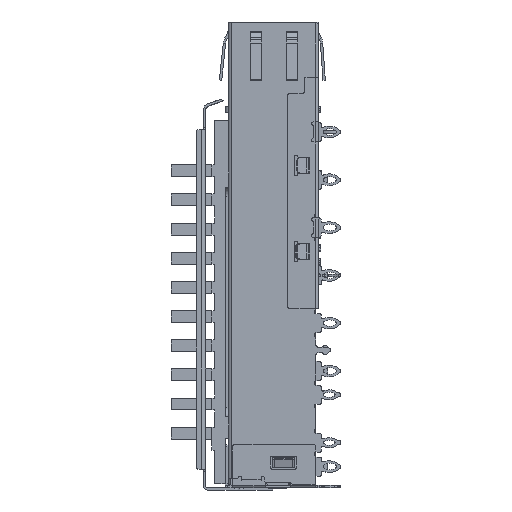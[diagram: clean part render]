
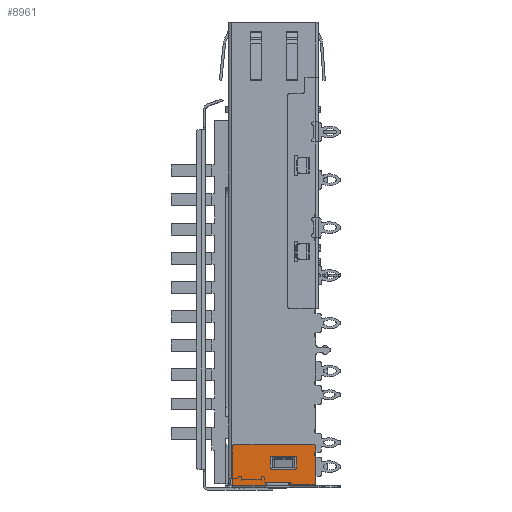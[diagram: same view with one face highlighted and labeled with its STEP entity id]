
A CAD part, left-side view. The second image highlights one B-rep face of the part: STEP entity #8961.
In plain terms, the highlighted planar face has unit normal (-1, 0, 0).
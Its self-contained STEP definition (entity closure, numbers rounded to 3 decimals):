
#8961=ADVANCED_FACE('',(#22542,#22543),#14576,.F.);
#14576=PLANE('',#120057);
#20111=CIRCLE('',#120032,0.2);
#20113=CIRCLE('',#120036,0.2);
#20115=CIRCLE('',#120039,0.2);
#20117=CIRCLE('',#120043,0.2);
#20119=CIRCLE('',#120047,0.2);
#20121=CIRCLE('',#120051,0.2);
#20123=CIRCLE('',#120055,0.25);
#20124=CIRCLE('',#120056,0.25);
#22542=FACE_BOUND('',#23632,.T.);
#22543=FACE_BOUND('',#23633,.T.);
#23632=EDGE_LOOP('',(#34675,#34676,#34677,#34678,#34679,#34680,#34681,#34682));
#23633=EDGE_LOOP('',(#34683,#34684,#34685,#34686,#34687,#34688,#34689,#34690,
#34691,#34692,#34693,#34694));
#34675=ORIENTED_EDGE('',*,*,#78746,.F.);
#34676=ORIENTED_EDGE('',*,*,#78743,.F.);
#34677=ORIENTED_EDGE('',*,*,#78740,.F.);
#34678=ORIENTED_EDGE('',*,*,#78737,.F.);
#34679=ORIENTED_EDGE('',*,*,#78734,.F.);
#34680=ORIENTED_EDGE('',*,*,#78731,.F.);
#34681=ORIENTED_EDGE('',*,*,#78728,.F.);
#34682=ORIENTED_EDGE('',*,*,#78724,.F.);
#34683=ORIENTED_EDGE('',*,*,#78719,.F.);
#34684=ORIENTED_EDGE('',*,*,#78748,.T.);
#34685=ORIENTED_EDGE('',*,*,#78749,.F.);
#34686=ORIENTED_EDGE('',*,*,#78698,.F.);
#34687=ORIENTED_EDGE('',*,*,#78750,.F.);
#34688=ORIENTED_EDGE('',*,*,#78714,.F.);
#34689=ORIENTED_EDGE('',*,*,#78710,.F.);
#34690=ORIENTED_EDGE('',*,*,#78721,.F.);
#34691=ORIENTED_EDGE('',*,*,#78751,.F.);
#34692=ORIENTED_EDGE('',*,*,#78705,.F.);
#34693=ORIENTED_EDGE('',*,*,#78752,.F.);
#34694=ORIENTED_EDGE('',*,*,#78753,.T.);
#66891=VERTEX_POINT('',#169129);
#66892=VERTEX_POINT('',#169131);
#66895=VERTEX_POINT('',#169143);
#66896=VERTEX_POINT('',#169145);
#66898=VERTEX_POINT('',#169155);
#66899=VERTEX_POINT('',#169156);
#66902=VERTEX_POINT('',#169164);
#66906=VERTEX_POINT('',#169173);
#66907=VERTEX_POINT('',#169175);
#66908=VERTEX_POINT('',#169179);
#66910=VERTEX_POINT('',#169185);
#66911=VERTEX_POINT('',#169186);
#66914=VERTEX_POINT('',#169194);
#66916=VERTEX_POINT('',#169200);
#66918=VERTEX_POINT('',#169206);
#66920=VERTEX_POINT('',#169212);
#66922=VERTEX_POINT('',#169218);
#66924=VERTEX_POINT('',#169224);
#66926=VERTEX_POINT('',#169233);
#66927=VERTEX_POINT('',#169238);
#78698=EDGE_CURVE('',#66891,#66892,#94080,.T.);
#78705=EDGE_CURVE('',#66895,#66896,#94085,.T.);
#78710=EDGE_CURVE('',#66898,#66899,#94089,.T.);
#78714=EDGE_CURVE('',#66899,#66902,#20111,.T.);
#78719=EDGE_CURVE('',#66906,#66907,#94096,.T.);
#78721=EDGE_CURVE('',#66908,#66898,#20113,.T.);
#78724=EDGE_CURVE('',#66910,#66911,#20115,.T.);
#78728=EDGE_CURVE('',#66911,#66914,#94101,.T.);
#78731=EDGE_CURVE('',#66914,#66916,#20117,.T.);
#78734=EDGE_CURVE('',#66916,#66918,#94105,.T.);
#78737=EDGE_CURVE('',#66918,#66920,#20119,.T.);
#78740=EDGE_CURVE('',#66920,#66922,#94109,.T.);
#78743=EDGE_CURVE('',#66922,#66924,#20121,.T.);
#78746=EDGE_CURVE('',#66924,#66910,#94113,.T.);
#78748=EDGE_CURVE('',#66906,#66926,#20123,.T.);
#78749=EDGE_CURVE('',#66892,#66926,#94115,.T.);
#78750=EDGE_CURVE('',#66902,#66891,#94116,.T.);
#78751=EDGE_CURVE('',#66896,#66908,#94117,.T.);
#78752=EDGE_CURVE('',#66927,#66895,#94118,.T.);
#78753=EDGE_CURVE('',#66927,#66907,#20124,.T.);
#94080=LINE('',#169130,#107084);
#94085=LINE('',#169144,#107089);
#94089=LINE('',#169154,#107093);
#94096=LINE('',#169174,#107100);
#94101=LINE('',#169193,#107105);
#94105=LINE('',#169205,#107109);
#94109=LINE('',#169217,#107113);
#94113=LINE('',#169229,#107117);
#94115=LINE('',#169234,#107119);
#94116=LINE('',#169235,#107120);
#94117=LINE('',#169236,#107121);
#94118=LINE('',#169237,#107122);
#107084=VECTOR('',#134809,1.);
#107089=VECTOR('',#134824,1.);
#107093=VECTOR('',#134836,1.);
#107100=VECTOR('',#134851,1.);
#107105=VECTOR('',#134870,1.);
#107109=VECTOR('',#134882,1.);
#107113=VECTOR('',#134894,1.);
#107117=VECTOR('',#134906,1.);
#107119=VECTOR('',#134912,1.);
#107120=VECTOR('',#134913,1.);
#107121=VECTOR('',#134914,1.);
#107122=VECTOR('',#134915,1.);
#120032=AXIS2_PLACEMENT_3D('',#169163,#134842,#134843);
#120036=AXIS2_PLACEMENT_3D('',#169178,#134855,#134856);
#120039=AXIS2_PLACEMENT_3D('',#169184,#134862,#134863);
#120043=AXIS2_PLACEMENT_3D('',#169199,#134875,#134876);
#120047=AXIS2_PLACEMENT_3D('',#169211,#134887,#134888);
#120051=AXIS2_PLACEMENT_3D('',#169223,#134899,#134900);
#120055=AXIS2_PLACEMENT_3D('',#169232,#134910,#134911);
#120056=AXIS2_PLACEMENT_3D('',#169239,#134916,#134917);
#120057=AXIS2_PLACEMENT_3D('',#169240,#134918,#134919);
#134809=DIRECTION('',(0.,1.,0.));
#134824=DIRECTION('',(0.,1.,0.));
#134836=DIRECTION('',(0.,1.,0.));
#134842=DIRECTION('',(-1.,0.,0.));
#134843=DIRECTION('',(0.,0.,-1.));
#134851=DIRECTION('',(0.,-1.,0.));
#134855=DIRECTION('',(-1.,0.,0.));
#134856=DIRECTION('',(0.,0.,1.));
#134862=DIRECTION('',(-1.,0.,0.));
#134863=DIRECTION('',(0.,0.,1.));
#134870=DIRECTION('',(0.,0.,-1.));
#134875=DIRECTION('',(-1.,0.,0.));
#134876=DIRECTION('',(0.,0.,1.));
#134882=DIRECTION('',(0.,-1.,0.));
#134887=DIRECTION('',(-1.,0.,0.));
#134888=DIRECTION('',(0.,0.,1.));
#134894=DIRECTION('',(0.,0.,1.));
#134899=DIRECTION('',(-1.,0.,0.));
#134900=DIRECTION('',(0.,0.,1.));
#134906=DIRECTION('',(0.,1.,0.));
#134910=DIRECTION('',(-1.,0.,0.));
#134911=DIRECTION('',(0.,0.,-1.));
#134912=DIRECTION('',(0.,0.,1.));
#134913=DIRECTION('',(0.,0.,-1.));
#134914=DIRECTION('',(0.,0.,1.));
#134915=DIRECTION('',(0.,0.,-1.));
#134916=DIRECTION('',(-1.,0.,0.));
#134917=DIRECTION('',(0.,0.,-1.));
#134918=DIRECTION('',(1.,0.,0.));
#134919=DIRECTION('',(0.,0.,1.));
#169129=CARTESIAN_POINT('',(-43.175,-3.9,-48.45));
#169130=CARTESIAN_POINT('',(-43.175,-0.46,-48.45));
#169131=CARTESIAN_POINT('',(-43.175,-0.46,-48.45));
#169143=CARTESIAN_POINT('',(-43.175,-9.2,-48.45));
#169144=CARTESIAN_POINT('',(-43.175,-0.46,-48.45));
#169145=CARTESIAN_POINT('',(-43.175,-6.5,-48.45));
#169154=CARTESIAN_POINT('',(-43.175,-6.3,-48.15));
#169155=CARTESIAN_POINT('',(-43.175,-6.3,-48.15));
#169156=CARTESIAN_POINT('',(-43.175,-4.1,-48.15));
#169163=CARTESIAN_POINT('',(-43.175,-4.1,-48.35));
#169164=CARTESIAN_POINT('',(-43.175,-3.9,-48.35));
#169173=CARTESIAN_POINT('',(-43.175,-0.71,-44.2));
#169174=CARTESIAN_POINT('',(-43.175,-0.46,-44.2));
#169175=CARTESIAN_POINT('',(-43.175,-8.95,-44.2));
#169178=CARTESIAN_POINT('',(-43.175,-6.3,-48.35));
#169179=CARTESIAN_POINT('',(-43.175,-6.5,-48.35));
#169184=CARTESIAN_POINT('',(-43.175,-4.6,-45.66));
#169185=CARTESIAN_POINT('',(-43.175,-4.6,-45.46));
#169186=CARTESIAN_POINT('',(-43.175,-4.4,-45.66));
#169193=CARTESIAN_POINT('',(-43.175,-4.4,-45.66));
#169194=CARTESIAN_POINT('',(-43.175,-4.4,-46.56));
#169199=CARTESIAN_POINT('',(-43.175,-4.6,-46.56));
#169200=CARTESIAN_POINT('',(-43.175,-4.6,-46.76));
#169205=CARTESIAN_POINT('',(-43.175,-4.6,-46.76));
#169206=CARTESIAN_POINT('',(-43.175,-7.,-46.76));
#169211=CARTESIAN_POINT('',(-43.175,-7.,-46.56));
#169212=CARTESIAN_POINT('',(-43.175,-7.2,-46.56));
#169217=CARTESIAN_POINT('',(-43.175,-7.2,-46.56));
#169218=CARTESIAN_POINT('',(-43.175,-7.2,-45.66));
#169223=CARTESIAN_POINT('',(-43.175,-7.,-45.66));
#169224=CARTESIAN_POINT('',(-43.175,-7.,-45.46));
#169229=CARTESIAN_POINT('',(-43.175,-7.,-45.46));
#169232=CARTESIAN_POINT('',(-43.175,-0.71,-44.45));
#169233=CARTESIAN_POINT('',(-43.175,-0.46,-44.45));
#169234=CARTESIAN_POINT('',(-43.175,-0.46,-48.45));
#169235=CARTESIAN_POINT('',(-43.175,-3.9,-48.35));
#169236=CARTESIAN_POINT('',(-43.175,-6.5,-48.946));
#169237=CARTESIAN_POINT('',(-43.175,-9.2,-44.2));
#169238=CARTESIAN_POINT('',(-43.175,-9.2,-44.45));
#169239=CARTESIAN_POINT('',(-43.175,-8.95,-44.45));
#169240=CARTESIAN_POINT('',(-43.175,0.05,-48.45));
